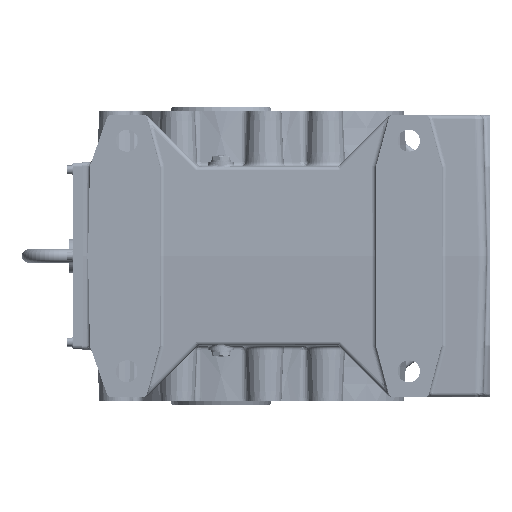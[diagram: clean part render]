
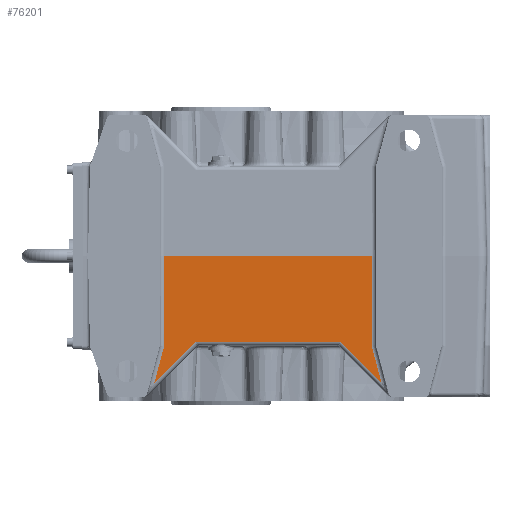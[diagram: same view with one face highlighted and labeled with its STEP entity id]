
A CAD part, left-side view. The second image highlights one B-rep face of the part: STEP entity #76201.
In plain terms, the highlighted planar face has unit normal (-1, 0, -0.026).
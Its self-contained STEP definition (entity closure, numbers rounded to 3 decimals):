
#51810=CARTESIAN_POINT('',(-192.128,-139.571,-100.131));
#51811=VERTEX_POINT('',#51810);
#51819=CARTESIAN_POINT('',(-192.128,29.571,-100.131));
#51820=VERTEX_POINT('',#51819);
#51821=CARTESIAN_POINT('',(-192.128,-139.571,-100.131));
#51822=DIRECTION('',(0.0,1.0,0.0));
#51823=VECTOR('',#51822,169.142);
#51824=LINE('',#51821,#51823);
#51825=EDGE_CURVE('',#51811,#51820,#51824,.T.);
#58205=CARTESIAN_POINT('',(-191.986,66.5,-105.524));
#58206=VERTEX_POINT('',#58205);
#58231=CARTESIAN_POINT('',(-194.75,66.5,0.0));
#58232=VERTEX_POINT('',#58231);
#58233=CARTESIAN_POINT('',(-191.986,66.5,-105.524));
#58234=DIRECTION('',(-0.026,0.0,1.));
#58235=VECTOR('',#58234,105.561);
#58236=LINE('',#58233,#58235);
#58237=EDGE_CURVE('',#58206,#58232,#58236,.T.);
#58264=CARTESIAN_POINT('',(-190.86,77.967,-148.527));
#58265=VERTEX_POINT('',#58264);
#58273=CARTESIAN_POINT('',(-190.86,77.967,-148.527));
#58274=DIRECTION('',(-0.025,-0.258,0.966));
#58275=VECTOR('',#58274,44.52);
#58276=LINE('',#58273,#58275);
#58277=EDGE_CURVE('',#58265,#58206,#58276,.T.);
#58731=CARTESIAN_POINT('',(-191.986,-176.5,-105.524));
#58732=VERTEX_POINT('',#58731);
#58826=CARTESIAN_POINT('',(-190.86,-187.967,-148.527));
#58827=VERTEX_POINT('',#58826);
#58828=CARTESIAN_POINT('',(-191.986,-176.5,-105.524));
#58829=DIRECTION('',(0.025,-0.258,-0.966));
#58830=VECTOR('',#58829,44.52);
#58831=LINE('',#58828,#58830);
#58832=EDGE_CURVE('',#58732,#58827,#58831,.T.);
#60274=CARTESIAN_POINT('',(-194.75,-176.5,0.0));
#60275=VERTEX_POINT('',#60274);
#60283=CARTESIAN_POINT('',(-194.75,-176.5,0.));
#60284=DIRECTION('',(0.026,0.0,-1.));
#60285=VECTOR('',#60284,105.561);
#60286=LINE('',#60283,#60285);
#60287=EDGE_CURVE('',#60275,#58732,#60286,.T.);
#62244=CARTESIAN_POINT('',(-190.86,-187.967,-148.527));
#62245=DIRECTION('',(-0.019,0.707,0.707));
#62246=VECTOR('',#62245,68.455);
#62247=LINE('',#62244,#62246);
#62248=EDGE_CURVE('',#58827,#51811,#62247,.T.);
#62421=CARTESIAN_POINT('',(-192.128,29.571,-100.131));
#62422=DIRECTION('',(0.019,0.707,-0.707));
#62423=VECTOR('',#62422,68.455);
#62424=LINE('',#62421,#62423);
#62425=EDGE_CURVE('',#51820,#58265,#62424,.T.);
#76155=CARTESIAN_POINT('',(-194.75,66.5,0.0));
#76156=DIRECTION('',(0.0,-1.0,0.0));
#76157=VECTOR('',#76156,243.0);
#76158=LINE('',#76155,#76157);
#76159=EDGE_CURVE('',#58232,#60275,#76158,.T.);
#76186=CARTESIAN_POINT('',(-194.749,-307.0,-0.036));
#76187=DIRECTION('',(1.,0.,0.026));
#76188=DIRECTION('',(0.026,0.,-1.));
#76189=AXIS2_PLACEMENT_3D('',#76186,#76187,#76188);
#76190=PLANE('',#76189);
#76191=ORIENTED_EDGE('',*,*,#58277,.F.);
#76192=ORIENTED_EDGE('',*,*,#62425,.F.);
#76193=ORIENTED_EDGE('',*,*,#51825,.F.);
#76194=ORIENTED_EDGE('',*,*,#62248,.F.);
#76195=ORIENTED_EDGE('',*,*,#58832,.F.);
#76196=ORIENTED_EDGE('',*,*,#60287,.F.);
#76197=ORIENTED_EDGE('',*,*,#76159,.F.);
#76198=ORIENTED_EDGE('',*,*,#58237,.F.);
#76199=EDGE_LOOP('',(#76191,#76192,#76193,#76194,#76195,#76196,#76197,#76198));
#76200=FACE_OUTER_BOUND('',#76199,.T.);
#76201=ADVANCED_FACE('',(#76200),#76190,.F.);
